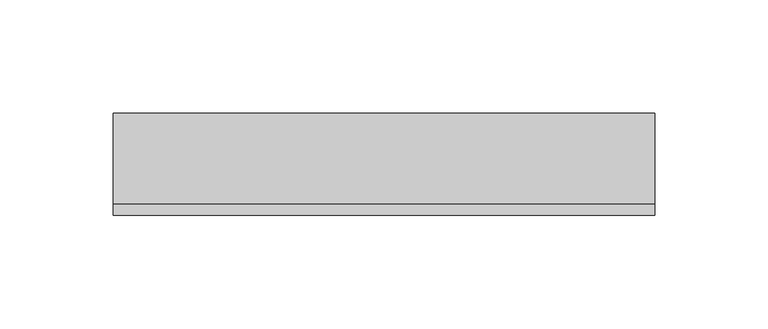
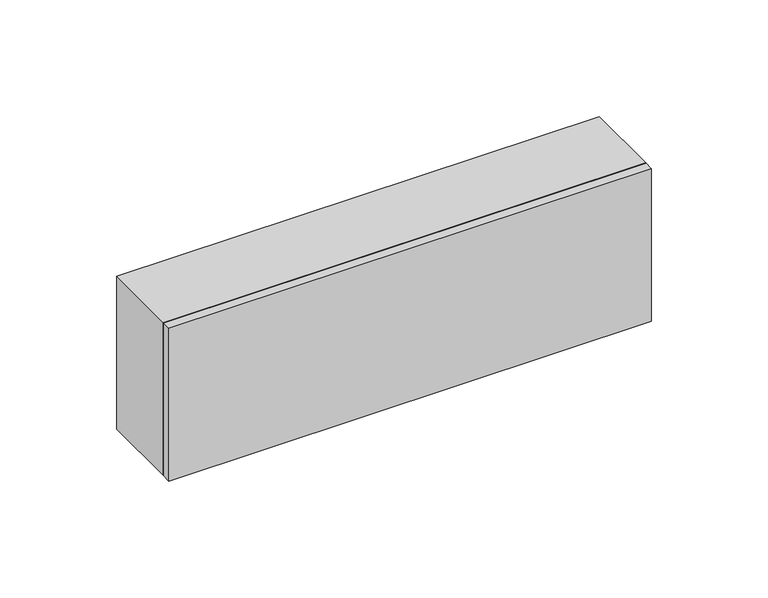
"""IFC4 building model written with IfcOpenShell, lengths in millimetres: switching device geometry, ZYR_06.03 Emer Paret Rect : 02 Emergencia Pared Superficie 02."""

from ifc_helpers import new_model, si_unit, frame, origin, place, context, project, spatial, polyline, outline, extrude, source, transform, mapped, element, save


def switching_device_36dddefc(model_context):
    return source(origin(), model_context, "Body", "SweptSolid", [
        extrude(outline(polyline([(119.5, -40.0), (-119.5, -40.0), (-119.5, 0.0), (119.5, 0.0), (119.5, -40.0)])), frame((0.0, 0.0, -40.0), z_axis=(0.0, 0.0, 1.0), x_axis=(1.0, 0.0, 0.0)), (0.0, 0.0, 1.0), 80.0),
        extrude(outline(polyline([(119.5, -45.0), (-119.5, -45.0), (-119.5, -40.0), (119.5, -40.0), (119.5, -45.0)])), frame((0.0, 0.0, -40.0), z_axis=(0.0, 0.0, 1.0), x_axis=(1.0, 0.0, 0.0)), (0.0, 0.0, 1.0), 80.0),
    ])


if __name__ == "__main__":
    model = new_model("IFC4")
    model_context = context("Model", 3, world=origin())
    ifc_project = project(units=[si_unit("LENGTHUNIT", "METRE", prefix="MILLI")], contexts=[model_context])
    site = spatial("IfcSite", under=ifc_project)
    building = spatial("IfcBuilding", under=site)
    placement = place(None, origin())
    switching_device_shape = switching_device_36dddefc(model_context)
    element("IfcSwitchingDevice", 1, ObjectType="ZYR_06.03 Emer Paret Rect : 02 Emergencia Pared Superficie 02", at=placement, inside=building, context=model_context, shape_type="MappedRepresentation", body=[
        mapped(switching_device_shape, transform((0.0, 0.0, 0.0), x_axis=(1.0, 0.0, 0.0), y_axis=(0.0, 1.0, 0.0), z_axis=(0.0, 0.0, 1.0))),
    ])
    save(model, "model.ifc")
